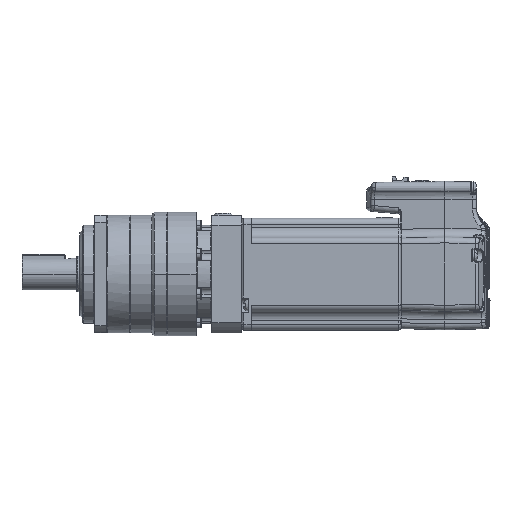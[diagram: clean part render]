
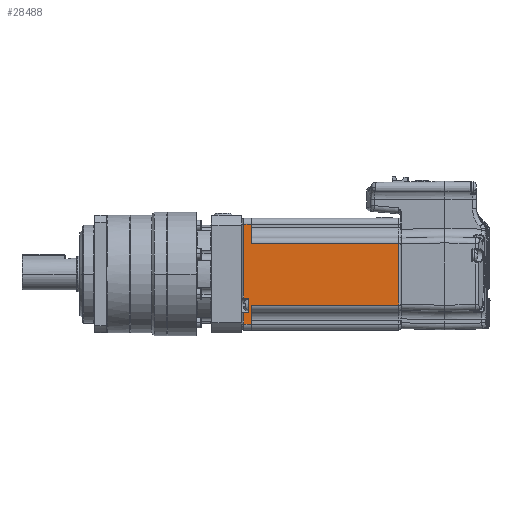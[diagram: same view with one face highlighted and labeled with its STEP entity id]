
A CAD part, left-side view. The second image highlights one B-rep face of the part: STEP entity #28488.
In plain terms, the highlighted planar face has unit normal (-1, 0, 0).
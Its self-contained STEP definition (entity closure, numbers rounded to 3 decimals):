
#1518 = ORIENTED_EDGE ( 'NONE', *, *, #11512, .F. ) ;
#1519 = ORIENTED_EDGE ( 'NONE', *, *, #11506, .T. ) ;
#1520 = ORIENTED_EDGE ( 'NONE', *, *, #10964, .T. ) ;
#1521 = ORIENTED_EDGE ( 'NONE', *, *, #11009, .T. ) ;
#1522 = ORIENTED_EDGE ( 'NONE', *, *, #11030, .T. ) ;
#1523 = ORIENTED_EDGE ( 'NONE', *, *, #11046, .T. ) ;
#1524 = ORIENTED_EDGE ( 'NONE', *, *, #11060, .T. ) ;
#1525 = ORIENTED_EDGE ( 'NONE', *, *, #11077, .T. ) ;
#1526 = ORIENTED_EDGE ( 'NONE', *, *, #11086, .T. ) ;
#1527 = ORIENTED_EDGE ( 'NONE', *, *, #11105, .T. ) ;
#1528 = ORIENTED_EDGE ( 'NONE', *, *, #11112, .T. ) ;
#1529 = ORIENTED_EDGE ( 'NONE', *, *, #11519, .F. ) ;
#10964 = EDGE_CURVE ( 'NONE', #111293, #111287, #48442, .T. ) ;
#11009 = EDGE_CURVE ( 'NONE', #111287, #111737, #48491, .T. ) ;
#11030 = EDGE_CURVE ( 'NONE', #111737, #111305, #48507, .T. ) ;
#11046 = EDGE_CURVE ( 'NONE', #111305, #111309, #48526, .T. ) ;
#11060 = EDGE_CURVE ( 'NONE', #111309, #111332, #48540, .T. ) ;
#11077 = EDGE_CURVE ( 'NONE', #111332, #111297, #48551, .T. ) ;
#11086 = EDGE_CURVE ( 'NONE', #111297, #111769, #48558, .T. ) ;
#11105 = EDGE_CURVE ( 'NONE', #111769, #111341, #48576, .T. ) ;
#11112 = EDGE_CURVE ( 'NONE', #111341, #111336, #48577, .T. ) ;
#11506 = EDGE_CURVE ( 'NONE', #111429, #111293, #48876, .T. ) ;
#11512 = EDGE_CURVE ( 'NONE', #111429, #111055, #48880, .T. ) ;
#11519 = EDGE_CURVE ( 'NONE', #111055, #111336, #48882, .T. ) ;
#28488 = ADVANCED_FACE ( 'NONE', ( #100724 ), #98241, .T. ) ;
#38812 = EDGE_LOOP ( 'NONE', ( #1518, #1519, #1520, #1521, #1522, #1523, #1524, #1525, #1526, #1527, #1528, #1529 ) ) ;
#43981 = CARTESIAN_POINT ( 'NONE',  ( -28.519, 83.5, -28.5 ) ) ;
#43985 = DIRECTION ( 'NONE',  ( 0., 0., 1. ) ) ;
#44011 = CARTESIAN_POINT ( 'NONE',  ( -28.519, 7.5, 25.5 ) ) ;
#44012 = DIRECTION ( 'NONE',  ( 0., 1., 0. ) ) ;
#44022 = CARTESIAN_POINT ( 'NONE',  ( -28.519, 87.5, -28.5 ) ) ;
#44027 = DIRECTION ( 'NONE',  ( 0., 0., -1. ) ) ;
#44033 = CARTESIAN_POINT ( 'NONE',  ( -28.519, 7.5, -12.2 ) ) ;
#44034 = DIRECTION ( 'NONE',  ( 0., -1., 0. ) ) ;
#44041 = CARTESIAN_POINT ( 'NONE',  ( -28.519, 85., -28.5 ) ) ;
#44042 = DIRECTION ( 'NONE',  ( 0., 0., -1. ) ) ;
#44050 = CARTESIAN_POINT ( 'NONE',  ( -28.519, 7.5, -19.6 ) ) ;
#44051 = DIRECTION ( 'NONE',  ( 0., 1., 0. ) ) ;
#44054 = CARTESIAN_POINT ( 'NONE',  ( -28.519, 87.5, -28.5 ) ) ;
#44055 = DIRECTION ( 'NONE',  ( 0., 0., -1. ) ) ;
#44069 = CARTESIAN_POINT ( 'NONE',  ( -28.519, 7.5, -25.5 ) ) ;
#44071 = CARTESIAN_POINT ( 'NONE',  ( -28.519, 83.5, -28.5 ) ) ;
#44080 = DIRECTION ( 'NONE',  ( 0., -1., 0. ) ) ;
#44085 = DIRECTION ( 'NONE',  ( 0., 0., 1. ) ) ;
#44154 = CARTESIAN_POINT ( 'NONE',  ( -28.519, 83.5, -15.77 ) ) ;
#44162 = CARTESIAN_POINT ( 'NONE',  ( -28.519, 7.5, 15.77 ) ) ;
#44165 = DIRECTION ( 'NONE',  ( 0., 1., 0. ) ) ;
#44170 = CARTESIAN_POINT ( 'NONE',  ( -28.519, 8.5, 15.77 ) ) ;
#44172 = DIRECTION ( 'NONE',  ( 0., 0., -1. ) ) ;
#44179 = DIRECTION ( 'NONE',  ( 0., 1., 0. ) ) ;
#48442 = LINE ( 'NONE', #43981, #48461 ) ;
#48461 = VECTOR ( 'NONE', #43985, 1000. ) ;
#48491 = LINE ( 'NONE', #44011, #48498 ) ;
#48498 = VECTOR ( 'NONE', #44012, 1000. ) ;
#48507 = LINE ( 'NONE', #44022, #48516 ) ;
#48516 = VECTOR ( 'NONE', #44027, 1000. ) ;
#48526 = LINE ( 'NONE', #44033, #48530 ) ;
#48530 = VECTOR ( 'NONE', #44034, 1000. ) ;
#48540 = LINE ( 'NONE', #44041, #48545 ) ;
#48545 = VECTOR ( 'NONE', #44042, 1000. ) ;
#48551 = LINE ( 'NONE', #44050, #48556 ) ;
#48556 = VECTOR ( 'NONE', #44051, 1000. ) ;
#48558 = LINE ( 'NONE', #44054, #48564 ) ;
#48564 = VECTOR ( 'NONE', #44055, 1000. ) ;
#48576 = LINE ( 'NONE', #44069, #48583 ) ;
#48577 = LINE ( 'NONE', #44071, #48589 ) ;
#48583 = VECTOR ( 'NONE', #44080, 1000. ) ;
#48589 = VECTOR ( 'NONE', #44085, 1000. ) ;
#48876 = LINE ( 'NONE', #44162, #48879 ) ;
#48879 = VECTOR ( 'NONE', #44165, 1000. ) ;
#48880 = LINE ( 'NONE', #44170, #48883 ) ;
#48882 = LINE ( 'NONE', #44154, #48887 ) ;
#48883 = VECTOR ( 'NONE', #44172, 1000. ) ;
#48887 = VECTOR ( 'NONE', #44179, 1000. ) ;
#65669 = CARTESIAN_POINT ( 'NONE',  ( -28.519, 87.5, -25.5 ) ) ;
#90901 = CARTESIAN_POINT ( 'NONE',  ( -28.519, 8.5, -15.77 ) ) ;
#90952 = CARTESIAN_POINT ( 'NONE',  ( -28.519, 83.5, 25.5 ) ) ;
#90953 = CARTESIAN_POINT ( 'NONE',  ( -28.519, 83.5, 15.77 ) ) ;
#90954 = CARTESIAN_POINT ( 'NONE',  ( -28.519, 87.5, -19.6 ) ) ;
#90956 = CARTESIAN_POINT ( 'NONE',  ( -28.519, 87.5, -12.2 ) ) ;
#90957 = CARTESIAN_POINT ( 'NONE',  ( -28.519, 85., -12.2 ) ) ;
#90962 = CARTESIAN_POINT ( 'NONE',  ( -28.519, 85., -19.6 ) ) ;
#90963 = CARTESIAN_POINT ( 'NONE',  ( -28.519, 83.5, -15.77 ) ) ;
#90964 = CARTESIAN_POINT ( 'NONE',  ( -28.519, 83.5, -25.5 ) ) ;
#90983 = CARTESIAN_POINT ( 'NONE',  ( -28.519, 8.5, 15.77 ) ) ;
#91054 = CARTESIAN_POINT ( 'NONE',  ( -28.519, 87.5, 25.5 ) ) ;
#95068 = AXIS2_PLACEMENT_3D ( 'NONE', #98236, #98244, #98245 ) ;
#98236 = CARTESIAN_POINT ( 'NONE',  ( -28.519, 7.5, -28.5 ) ) ;
#98241 = PLANE ( 'NONE',  #95068 ) ;
#98244 = DIRECTION ( 'NONE',  ( -1., 0., 0. ) ) ;
#98245 = DIRECTION ( 'NONE',  ( 0., 0., 1. ) ) ;
#100724 = FACE_OUTER_BOUND ( 'NONE', #38812, .T. ) ;
#111055 = VERTEX_POINT ( 'NONE', #90901 ) ;
#111287 = VERTEX_POINT ( 'NONE', #90952 ) ;
#111293 = VERTEX_POINT ( 'NONE', #90953 ) ;
#111297 = VERTEX_POINT ( 'NONE', #90954 ) ;
#111305 = VERTEX_POINT ( 'NONE', #90956 ) ;
#111309 = VERTEX_POINT ( 'NONE', #90957 ) ;
#111332 = VERTEX_POINT ( 'NONE', #90962 ) ;
#111336 = VERTEX_POINT ( 'NONE', #90963 ) ;
#111341 = VERTEX_POINT ( 'NONE', #90964 ) ;
#111429 = VERTEX_POINT ( 'NONE', #90983 ) ;
#111737 = VERTEX_POINT ( 'NONE', #91054 ) ;
#111769 = VERTEX_POINT ( 'NONE', #65669 ) ;
